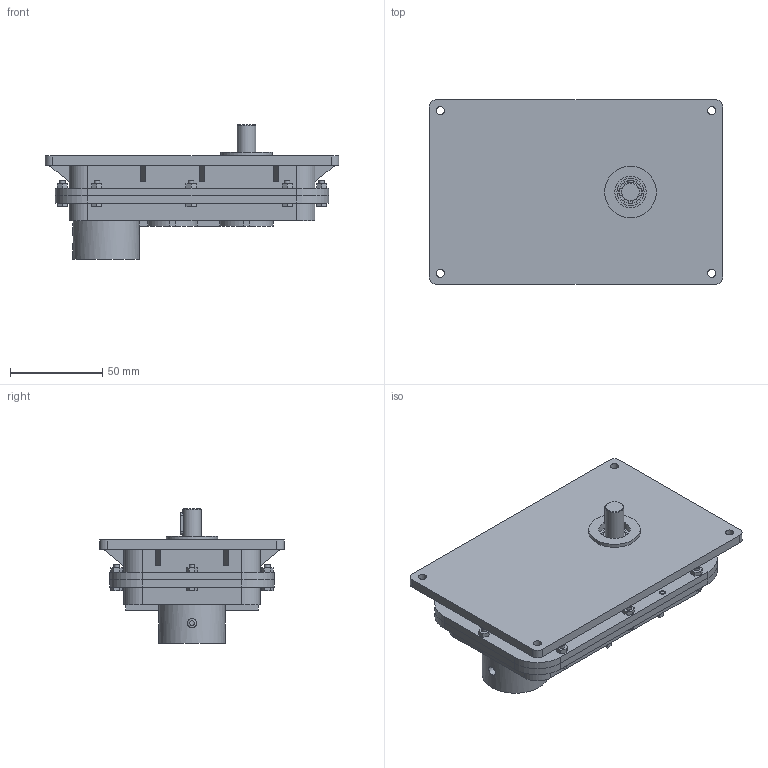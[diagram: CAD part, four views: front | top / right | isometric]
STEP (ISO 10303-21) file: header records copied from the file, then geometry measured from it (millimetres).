
FILE_DESCRIPTION(('Open CASCADE Model'),'2;1');
FILE_NAME('LP-GB-01_Gearbox_Assembly','2026-10-20T19:44:39',('Author'),( 'Open CASCADE'),'Open CASCADE STEP processor 8.0','build123d', 'Unknown');
FILE_SCHEMA(('AUTOMOTIVE_DESIGN { 1 0 10303 214 1 1 1 1 }'));
Length unit declared in the file: millimetre
Products named in the file (37): LP-GB-01_Gearbox_Assembly; 01_Housing_Front; 02_Housing_Rear; 03_Gear1_z20_m0.8; 04_Gear2_z70_m0.8; 05_Gear3_z18_m1.0; 06_Gear4_z62_m1.0; 07_Shaft_Input; 08_Shaft_Intermediate; 09_Shaft_Output; 10_Key_3x3x8_Gear2; 11_Key_4x4x10_Gear4; 12_Key_3x3x12_Output; 13_Bearing_6800ZZ_Input_Front; 14_Bearing_6800ZZ_Input_Rear; 15_Bearing_6800ZZ_Intermediate_Front; 16_Bearing_6800ZZ_Intermediate_Rear; 17_Bearing_6801ZZ_Output_Front; 18_Bearing_6801ZZ_Output_Rear; 19_Pin_D3_1; 20_Pin_D3_2; 21_Bolt_M3x12_1; 22_Bolt_M3x12_2; 23_Bolt_M3x12_3; 24_Bolt_M3x12_4; 25_Bolt_M3x12_5; 26_Bolt_M3x12_6; 27_Bolt_M3x12_7; 28_Bolt_M3x12_8; 29_Nut_M3_1; 30_Nut_M3_2; 31_Nut_M3_3; 32_Nut_M3_4; 33_Nut_M3_5; 34_Nut_M3_6; 35_Nut_M3_7; 36_Nut_M3_8
Assembly tree (36 placements, depth 2):
  LP-GB-01_Gearbox_Assembly
    01_Housing_Front
    02_Housing_Rear
    03_Gear1_z20_m0.8
    04_Gear2_z70_m0.8
    05_Gear3_z18_m1.0
    06_Gear4_z62_m1.0
    07_Shaft_Input
    08_Shaft_Intermediate
    09_Shaft_Output
    10_Key_3x3x8_Gear2
    11_Key_4x4x10_Gear4
    12_Key_3x3x12_Output
    13_Bearing_6800ZZ_Input_Front
    14_Bearing_6800ZZ_Input_Rear
    15_Bearing_6800ZZ_Intermediate_Front
    16_Bearing_6800ZZ_Intermediate_Rear
    17_Bearing_6801ZZ_Output_Front
    18_Bearing_6801ZZ_Output_Rear
    19_Pin_D3_1
    20_Pin_D3_2
    21_Bolt_M3x12_1
    22_Bolt_M3x12_2
    23_Bolt_M3x12_3
    24_Bolt_M3x12_4
    25_Bolt_M3x12_5
    26_Bolt_M3x12_6
    27_Bolt_M3x12_7
    28_Bolt_M3x12_8
    29_Nut_M3_1
    30_Nut_M3_2
    31_Nut_M3_3
    32_Nut_M3_4
    33_Nut_M3_5
    34_Nut_M3_6
    35_Nut_M3_7
    36_Nut_M3_8
Bounding box: 159 x 100 x 73 mm (x, y, z)
Volume: 247739.1 mm3; surface area: 131830 mm2
Topology: 36 solids, 36 shells, 1699 faces, 4609 edges, 3056 vertices
Faces by surface type: extrusion 680, cylinder 557, plane 428, cone 34
Full cylindrical faces by diameter (mm): 2.5 x3, 2.52 x2, 3 x22, 3.4 x16, 4.5 x4, 5 x2, 8 x6, 9 x6, 10 x9, 12 x4, 12.5 x3, 12.7 x8, 14 x5, 14.5 x1, 14.7 x4, 15 x1, 16 x1, 16.3 x8, 17 x1, 18 x1, 18.3 x4, 19 x8, 21 x4, 22 x2, 28 x1, 36 x1
Entity records: 160529 total; most frequent: CARTESIAN_POINT 71059, DIRECTION 14402, ORIENTED_EDGE 9218, PCURVE 9218, DEFINITIONAL_REPRESENTATION 9218, VECTOR 8907, LINE 8227, EDGE_CURVE 4609
